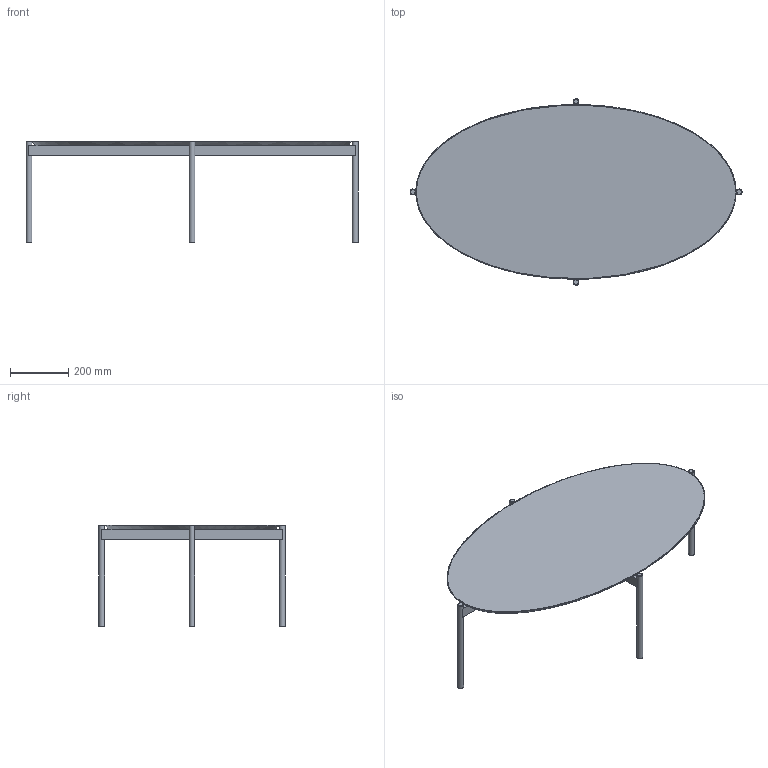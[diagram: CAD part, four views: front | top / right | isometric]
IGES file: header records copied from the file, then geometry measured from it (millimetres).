
Global section: file name: \\server2\Datos\PROYECTOS\2022\DOOS - Stand Feria H; native system: Rhinoceros ( Nov 10 2020 ); preprocessor: Trout Lake IGES 012 Nov 10 2020; date: 220818.060723; units: millimetre
Bounding box: 1140 x 640 x 350 mm (x, y, z)
Surface area: 1339379.7 mm2 (no closed solid volume)
Topology: 0 solids, 0 shells, 37 faces, 258 edges, 243 vertices
Faces by surface type: bspline 37
